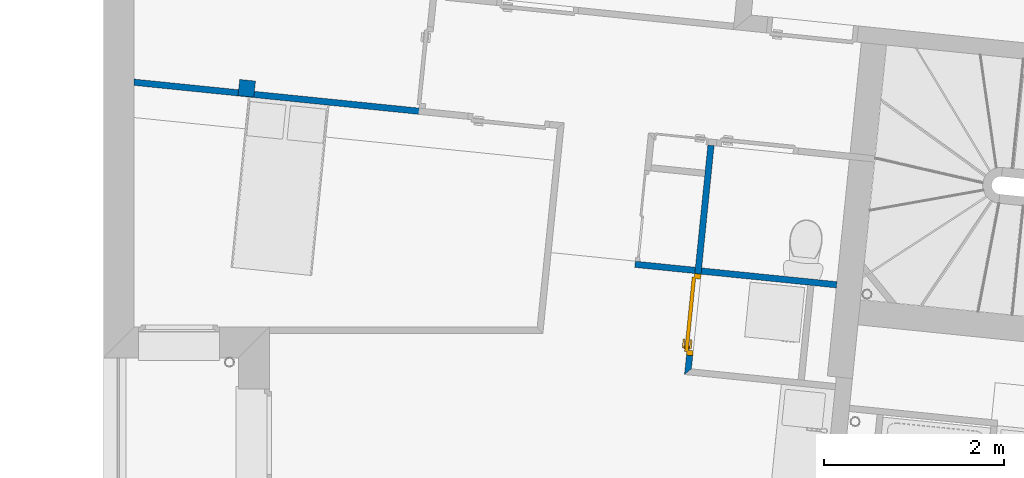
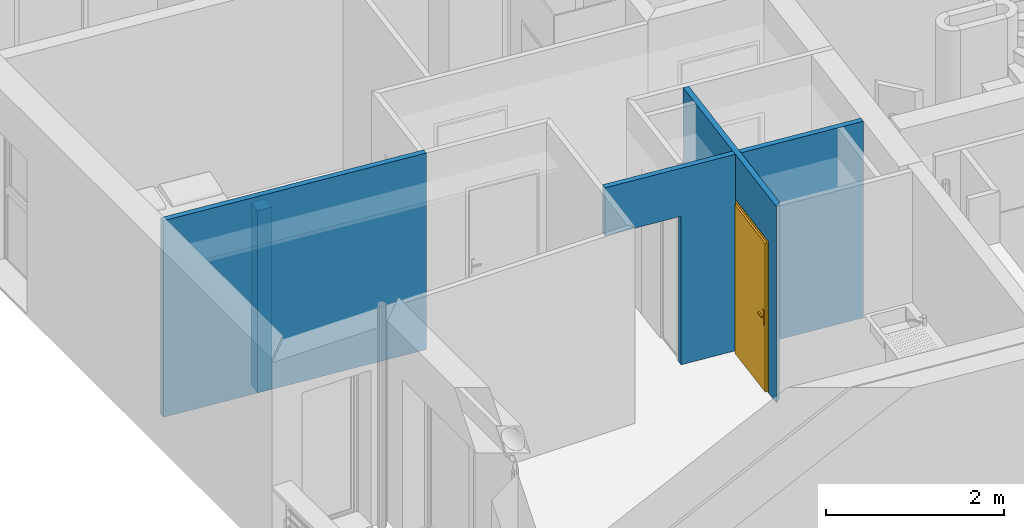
# One storey, part 46 of 164: 4 walls, 1 door, 2 openings.
"""IFC2X3 building model written with IfcOpenShell, lengths in millimetres."""

import ifcopenshell
import ifcopenshell.guid

model = None  # the IFC model being written
_history = None  # IfcOwnerHistory: only IFC2X3 demands one
_inside = {}  # id of a spatial element -> (the spatial element, [elements in it])
_under = {}  # id of a project, library or spatial element -> (it, [spatial elements below it])
_declared = {}  # id of a project -> (the project, [libraries it declares])
_typed = {}  # id of a type object -> (the type object, [elements of that type])
_made_of = {}  # id of a material, layer set ... -> (it, [elements and type objects made of it])


def new_model(schema):
    """Start an empty IFC model of exactly this schema.

    Asked for "IFC4X3", IfcOpenShell would pick the latest addendum, in which some entities
    have other attributes; the version numbers below select the first issue.
    IFC2X3 requires an IfcOwnerHistory on every rooted entity: one is made here for all.
    """
    global model, _history
    if schema == "IFC4X3":
        model = ifcopenshell.file(schema_version=(4, 3, 0, 0))
    else:
        model = ifcopenshell.file(schema=schema)
    _inside.clear()
    _under.clear()
    _declared.clear()
    _typed.clear()
    _made_of.clear()
    _history = None
    if model.schema == "IFC2X3":
        org = make("IfcOrganization", Name="unknown")
        user = make(
            "IfcPersonAndOrganization",
            ThePerson=make("IfcPerson", FamilyName="unknown"),
            TheOrganization=org,
        )
        app = make(
            "IfcApplication",
            ApplicationDeveloper=org,
            Version="unknown",
            ApplicationFullName="unknown",
            ApplicationIdentifier="unknown",
        )
        _history = make(
            "IfcOwnerHistory",
            OwningUser=user,
            OwningApplication=app,
            ChangeAction="ADDED",
            CreationDate=0,
        )
    return model


def make(cls, **values):
    """One entity of the class cls with the attributes given. An attribute that is None is left unset."""
    return model.create_entity(
        cls, **{name: value for name, value in values.items() if value is not None}
    )


def entity(cls, *values):
    """Any entity or typed value of the class cls, its attributes in the order of the schema. None: left unset."""
    e = model.create_entity(cls)
    for i, value in enumerate(values):
        if value is not None:
            e[i] = value
    return e


def rooted(cls, **values):
    """An entity with a GlobalId (a new one), such as an element, a storey or a relation."""
    return make(cls, GlobalId=ifcopenshell.guid.new(), OwnerHistory=_history, **values)


def si_unit(unit_type, name, prefix=None):
    """IfcSIUnit, for example si_unit("LENGTHUNIT", "METRE", prefix="MILLI")."""
    return make("IfcSIUnit", UnitType=unit_type, Prefix=prefix, Name=name)


def converted_unit(unit_type, name, factor, base, dimensions=None, offset=None):
    """IfcConversionBasedUnit, such as the inch: factor (a typed value) times the base unit."""
    return make(
        "IfcConversionBasedUnit"
        if offset is None
        else "IfcConversionBasedUnitWithOffset",
        ConversionOffset=offset,
        Dimensions=None
        if dimensions is None
        else entity("IfcDimensionalExponents", *dimensions),
        UnitType=unit_type,
        Name=name,
        ConversionFactor=make(
            "IfcMeasureWithUnit", ValueComponent=factor, UnitComponent=base
        ),
    )


def derived_unit(unit_type, elements):
    """IfcDerivedUnit: a product of units, each with its exponent."""
    return make(
        "IfcDerivedUnit",
        Elements=[
            make("IfcDerivedUnitElement", Unit=unit, Exponent=power)
            for unit, power in elements
        ],
        UnitType=unit_type,
    )


def money_unit(currency):
    """IfcMonetaryUnit."""
    return make("IfcMonetaryUnit", Currency=currency)


def assignment(units):
    """IfcUnitAssignment: the units of a project."""
    return None if units is None else make("IfcUnitAssignment", Units=units)


def point(xyz):
    """IfcCartesianPoint."""
    return None if xyz is None else make("IfcCartesianPoint", Coordinates=xyz)


def direction(xyz):
    """IfcDirection."""
    return None if xyz is None else make("IfcDirection", DirectionRatios=xyz)


def frame(location, z_axis=None, x_axis=None):
    """IfcAxis2Placement3D, a coordinate frame: its origin and axes. An axis left out is left unset."""
    return make(
        "IfcAxis2Placement3D",
        Location=point(location),
        Axis=direction(z_axis),
        RefDirection=direction(x_axis),
    )


def frame_2d(location, x_axis=None):
    """IfcAxis2Placement2D, a coordinate frame in the plane: its origin and x axis."""
    return make(
        "IfcAxis2Placement2D", Location=point(location), RefDirection=direction(x_axis)
    )


def origin_with_axes():
    """The frame at (0, 0, 0) with the z axis (0, 0, 1) and the x axis (1, 0, 0) written out."""
    return frame((0.0, 0.0, 0.0), z_axis=(0.0, 0.0, 1.0), x_axis=(1.0, 0.0, 0.0))


def origin_2d_with_axis():
    """The frame at (0, 0) in the plane with the x axis (1, 0) written out."""
    return frame_2d((0.0, 0.0), x_axis=(1.0, 0.0))


def place(relative_to, where):
    """IfcLocalPlacement: puts the frame where relative to a parent placement (None: the world)."""
    return make(
        "IfcLocalPlacement", PlacementRelTo=relative_to, RelativePlacement=where
    )


def context(
    kind, dimensions, precision=None, world=None, true_north=None, identifier=None
):
    """IfcGeometricRepresentationContext, for example the 3D "Model" context."""
    return make(
        "IfcGeometricRepresentationContext",
        ContextIdentifier=identifier,
        ContextType=kind,
        CoordinateSpaceDimension=dimensions,
        Precision=precision,
        WorldCoordinateSystem=world,
        TrueNorth=true_north,
    )


def subcontext(parent, identifier, kind, view, scale=None):
    """IfcGeometricRepresentationSubContext, for example "Body" below "Model"."""
    return make(
        "IfcGeometricRepresentationSubContext",
        ContextIdentifier=identifier,
        ContextType=kind,
        ParentContext=parent,
        TargetScale=scale,
        TargetView=view,
    )


def project(units=None, contexts=None):
    """IfcProject with its units and contexts."""
    return rooted(
        "IfcProject",
        Name="project",
        RepresentationContexts=contexts,
        UnitsInContext=assignment(units),
    )


def spatial(cls, under=None, at=None, **own):
    """A site, building, storey or space (cls), placed at a placement, below another one or the project."""
    s = rooted(cls, ObjectPlacement=at, **own)
    if under is not None:
        _under.setdefault(under.id(), (under, []))[1].append(s)
    return s


def polyline(points):
    """IfcPolyline through the points."""
    return make("IfcPolyline", Points=[point(p) for p in points])


def profile(cls, at=None, kind="AREA", **sizes):
    """A parametric profile (cls). Its sizes go by their IFC names, for example OverallWidth=200.0."""
    return make(cls, ProfileType=kind, Position=at, **sizes)


def rectangle(**sizes):
    """IfcRectangleProfileDef."""
    return profile("IfcRectangleProfileDef", **sizes)


def outline(outer, holes=None, kind="AREA"):
    """IfcArbitraryClosedProfileDef: a profile drawn as a closed curve; with holes, ...WithVoids."""
    if holes is None:
        return make("IfcArbitraryClosedProfileDef", ProfileType=kind, OuterCurve=outer)
    return make(
        "IfcArbitraryProfileDefWithVoids",
        ProfileType=kind,
        OuterCurve=outer,
        InnerCurves=holes,
    )


def extrude(swept, where, along, depth):
    """IfcExtrudedAreaSolid: the profile swept, set in the frame where, extruded along a direction by depth."""
    return make(
        "IfcExtrudedAreaSolid",
        SweptArea=swept,
        Position=where,
        ExtrudedDirection=direction(along),
        Depth=depth,
    )


def faces_of(points, faces, orient=None, outer=None):
    """IfcFace entities. A face is a list of loops; a loop is a list of indices into points, from 0.

    orient and outer hold one flag for each loop. By default every Orientation is true, the
    first loop of a face is its IfcFaceOuterBound and the others are IfcFaceBound.
    """
    made = []
    for i, loops in enumerate(faces):
        bounds = []
        for j, loop in enumerate(loops):
            is_outer = j == 0 if outer is None else outer[i][j]
            bounds.append(
                make(
                    "IfcFaceOuterBound" if is_outer else "IfcFaceBound",
                    Bound=make("IfcPolyLoop", Polygon=[points[k] for k in loop]),
                    Orientation=True if orient is None else orient[i][j],
                )
            )
        made.append(make("IfcFace", Bounds=bounds))
    return made


def faceted_brep(points, faces, orient=None, outer=None, voids=None):
    """IfcFacetedBrep: a solid bounded by flat faces; with voids (closed shells), ...WithVoids."""
    shared = [point(p) for p in points]
    hull = make("IfcClosedShell", CfsFaces=faces_of(shared, faces, orient, outer))
    if voids is None:
        return make("IfcFacetedBrep", Outer=hull)
    return make(
        "IfcFacetedBrepWithVoids",
        Outer=hull,
        Voids=[
            make(cls, CfsFaces=faces_of(shared, fs, o, b)) for cls, fs, o, b in voids
        ],
    )


def shape(context_of_items, identifier, shape_type, items):
    """IfcShapeRepresentation: the items that make up one representation, for example the "Body"."""
    return make(
        "IfcShapeRepresentation",
        ContextOfItems=context_of_items,
        RepresentationIdentifier=identifier,
        RepresentationType=shape_type,
        Items=items,
    )


def source(mapping_origin, context_of_items, identifier, shape_type, items):
    """IfcRepresentationMap: a shape defined once, which mapped items show again and again."""
    return make(
        "IfcRepresentationMap",
        MappingOrigin=mapping_origin,
        MappedRepresentation=shape(context_of_items, identifier, shape_type, items),
    )


def transform(
    local_origin,
    x_axis=None,
    y_axis=None,
    z_axis=None,
    scale=None,
    scale2=None,
    scale3=None,
    uniform=True,
):
    """IfcCartesianTransformationOperator3D, or its non-uniform kind. x_axis, y_axis, z_axis: its Axis1, 2, 3."""
    if uniform:
        return make(
            "IfcCartesianTransformationOperator3D",
            Axis1=direction(x_axis),
            Axis2=direction(y_axis),
            LocalOrigin=point(local_origin),
            Scale=scale,
            Axis3=direction(z_axis),
        )
    return make(
        "IfcCartesianTransformationOperator3DnonUniform",
        Axis1=direction(x_axis),
        Axis2=direction(y_axis),
        LocalOrigin=point(local_origin),
        Scale=scale,
        Axis3=direction(z_axis),
        Scale2=scale2,
        Scale3=scale3,
    )


def mapped(mapping_source, mapping_target):
    """IfcMappedItem: shows the shape of a source again, moved by a transform."""
    return make(
        "IfcMappedItem", MappingSource=mapping_source, MappingTarget=mapping_target
    )


def material(Name=None, Category=None):
    """IfcMaterial."""
    return make("IfcMaterial", Name=Name, Category=Category)


def layer(
    of_material, thickness, ventilated=None, Name=None, Category=None, Priority=None
):
    """IfcMaterialLayer: one layer of a wall or slab, of a material (None: an air gap)."""
    return make(
        "IfcMaterialLayer",
        Material=of_material,
        LayerThickness=thickness,
        IsVentilated=ventilated,
        Name=Name,
        Category=Category,
        Priority=Priority,
    )


def layer_set(layers, Name=None):
    """IfcMaterialLayerSet."""
    return make("IfcMaterialLayerSet", MaterialLayers=layers, LayerSetName=Name)


def layer_usage(for_layer_set, set_direction, sense, offset, extent=None):
    """IfcMaterialLayerSetUsage: how a layer set lies in its element."""
    return make(
        "IfcMaterialLayerSetUsage",
        ForLayerSet=for_layer_set,
        LayerSetDirection=set_direction,
        DirectionSense=sense,
        OffsetFromReferenceLine=offset,
        ReferenceExtent=extent,
    )


def made_of(thing, what):
    """Note that an element or type object is made of a material, layer set ...; save() writes the relation."""
    if what is not None:
        _made_of.setdefault(what.id(), (what, []))[1].append(thing)
    return thing


def type_object(cls, material=None, **own):
    """A type object (cls), such as IfcWallType, which elements share."""
    return made_of(rooted(cls, **own), material)


def element(
    cls,
    number,
    at=None,
    inside=None,
    cuts=None,
    type_object=None,
    material=None,
    context=None,
    identifier="Body",
    shape_type=None,
    held_by="IfcProductDefinitionShape",
    body=None,
    shapes=None,
    **own,
):
    """One element of the class cls, such as IfcWall. Its Tag is "e" and its number.

    at: its placement. inside: the storey or other place that contains it. cuts: it is an
    opening in that element (IfcRelVoidsElement). A single representation is given by context,
    identifier, shape_type and body (its items); several are given by shapes. held_by: the class
    of the entity that holds the representations. save() writes the other relations.
    """
    e = rooted(cls, Tag="e%d" % number, ObjectPlacement=at, **own)
    if body is not None:
        shapes = [shape(context, identifier, shape_type, body)]
    if shapes is not None:
        e.Representation = make(held_by, Representations=shapes)
    if inside is not None:
        _inside.setdefault(inside.id(), (inside, []))[1].append(e)
    if cuts is not None:
        rooted(
            "IfcRelVoidsElement", RelatingBuildingElement=cuts, RelatedOpeningElement=e
        )
    if type_object is not None:
        _typed.setdefault(type_object.id(), (type_object, []))[1].append(e)
    return made_of(e, material)


def fill(opening, filler):
    """IfcRelFillsElement: the door or window that sits in an opening."""
    return rooted(
        "IfcRelFillsElement",
        RelatingOpeningElement=opening,
        RelatedBuildingElement=filler,
    )


def aggregate(whole, parts):
    """IfcRelAggregates: a whole, such as a stair, and the parts it consists of."""
    return rooted("IfcRelAggregates", RelatingObject=whole, RelatedObjects=parts)


def save(model, path):
    """Write the relations noted so far, then the file.

    IfcRelAggregates (storeys below a building ...), IfcRelContainedInSpatialStructure (elements
    in a storey), IfcRelDefinesByType, IfcRelAssociatesMaterial and IfcRelDeclares: one each for
    every whole, place, type object, material and project.
    """
    for whole, parts in _under.values():
        aggregate(whole, parts)
    for where, things in _inside.values():
        rooted(
            "IfcRelContainedInSpatialStructure",
            RelatedElements=things,
            RelatingStructure=where,
        )
    for kind, things in _typed.values():
        rooted("IfcRelDefinesByType", RelatedObjects=things, RelatingType=kind)
    for what, things in _made_of.values():
        rooted("IfcRelAssociatesMaterial", RelatedObjects=things, RelatingMaterial=what)
    for by, libraries in _declared.values():
        rooted("IfcRelDeclares", RelatingContext=by, RelatedDefinitions=libraries)
    model.write(path)


model = new_model("IFC2X3")

# Units and contexts
model_context = context("Model", 3, precision=0.01, world=origin_with_axes(), true_north=direction((0.0, 1.0)))
body_context = subcontext(model_context, "Body", "Model", "MODEL_VIEW")
ifc_project = project(units=[si_unit("LENGTHUNIT", "METRE", prefix="MILLI"), si_unit("AREAUNIT", "SQUARE_METRE"), si_unit("VOLUMEUNIT", "CUBIC_METRE"), converted_unit("PLANEANGLEUNIT", "DEGREE", entity("IfcPlaneAngleMeasure", 0.0174532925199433), si_unit("PLANEANGLEUNIT", "RADIAN"), dimensions=[0, 0, 0, 0, 0, 0, 0]), money_unit("USD"), converted_unit("TIMEUNIT", "Year", entity("IfcTimeMeasure", 31557600.0), si_unit("TIMEUNIT", "SECOND"), dimensions=[0, 0, 1, 0, 0, 0, 0]), si_unit("MASSUNIT", "GRAM", prefix="KILO"), si_unit("THERMODYNAMICTEMPERATUREUNIT", "DEGREE_CELSIUS"), si_unit("LUMINOUSINTENSITYUNIT", "LUMEN"), si_unit("ENERGYUNIT", "JOULE", prefix="MEGA"), derived_unit("THERMALCONDUCTANCEUNIT", [(si_unit("POWERUNIT", "WATT"), 1), (si_unit("LENGTHUNIT", "METRE"), -1), (si_unit("THERMODYNAMICTEMPERATUREUNIT", "KELVIN"), -1)]), derived_unit("SPECIFICHEATCAPACITYUNIT", [(si_unit("ENERGYUNIT", "JOULE"), 1), (si_unit("MASSUNIT", "GRAM", prefix="KILO"), -1), (si_unit("THERMODYNAMICTEMPERATUREUNIT", "KELVIN"), -1)]), derived_unit("MASSDENSITYUNIT", [(si_unit("MASSUNIT", "GRAM", prefix="KILO"), 1), (si_unit("VOLUMEUNIT", "CUBIC_METRE"), -1)])], contexts=[model_context])

# Site, building, storey
site_placement = place(None, origin_with_axes())
site = spatial("IfcSite", under=ifc_project, at=site_placement, Name="Site", CompositionType="ELEMENT")
building_placement = place(site_placement, origin_with_axes())
building = spatial("IfcBuilding", under=site, at=building_placement, Name="Bâtiment", CompositionType="ELEMENT")
storey_placement = place(building_placement, frame((0.0, 0.0, 5750.0), z_axis=(0.0, 0.0, 1.0), x_axis=(1.0, 0.0, 0.0)))
storey = spatial("IfcBuildingStorey", under=building, at=storey_placement, Name="Etage1", CompositionType="ELEMENT", Elevation=5750.0)

# Wall
ifc_material_1 = material(Name="Hachure solide 268963992")
ifc_layer_1 = layer(ifc_material_1, 70.0, ventilated="UNKNOWN")
ifc_layer_set_1 = layer_set([ifc_layer_1], Name="Cloison 70 0826278243")
ifc_layer_usage_1 = layer_usage(ifc_layer_set_1, "AXIS2", "NEGATIVE", 70.0)
wall_type_1 = type_object("IfcWallType", Name="Cloison 70 0826278243 70", PredefinedType="NOTDEFINED")
wall_1_placement = place(storey_placement, frame((2220206.841744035, -614741.7699584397, 0.0), z_axis=(0.0, 0.0, 1.0), x_axis=(-0.9948688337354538, 0.1011731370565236, 0.0)))
element("IfcWallStandardCase", 1, at=wall_1_placement, inside=storey, type_object=wall_type_1, material=ifc_layer_usage_1, Name="Mur-149", context=body_context, shape_type="SweptSolid", body=[
    extrude(outline(polyline([(0.0, 0.0), (3249.281000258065, 0.0), (3242.162353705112, 70.00000000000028), (0.0, 70.00000000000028), (0.0, 0.0)])), origin_with_axes(), (0.0, 0.0, 1.0), 2700.0),
])

# Wall, opening, door
ifc_layer_usage_2 = layer_usage(ifc_layer_set_1, "AXIS2", "POSITIVE", -70.0)
wall_2_placement = place(storey_placement, frame((2223419.086359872, -615083.2193073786, 0.0), z_axis=(0.0, 0.0, 1.0), x_axis=(-0.1011032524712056, -0.9948759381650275, 0.0)))
wall_2 = element("IfcWallStandardCase", 2, at=wall_2_placement, inside=storey, type_object=wall_type_1, material=ifc_layer_usage_2, Name="Mur-149", context=body_context, shape_type="SweptSolid", body=[
    extrude(outline(polyline([(70.00000213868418, -70.00000000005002), (2629.231776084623, -70.00000000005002), (2559.231773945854, 0.0), (70.00000000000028, 0.0), (70.00000213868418, -70.00000000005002)])), origin_with_axes(), (0.0, 0.0, 1.0), 2700.0),
])
opening_1_placement = place(wall_2_placement, frame((1958.088383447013, 2.273736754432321e-10, 0.0), z_axis=(0.0, 0.0, 1.0), x_axis=(1.0, 0.0, 0.0)))
opening_1 = element("IfcOpeningElement", 3, at=opening_1_placement, cuts=wall_2, Name="Por-278", context=body_context, shape_type="SweptSolid", body=[
    extrude(rectangle(XDim=910.0, YDim=2080.0, at=origin_2d_with_axis()), frame((0.0, 70.00000000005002, 1040.0), z_axis=(0.0, -1.0, 0.0), x_axis=(-1.0, 0.0, 0.0)), (0.0, 0.0, 1.0), 140.0),
])
door_style = type_object("IfcDoorStyle", Name="Porte_1v", ConstructionType="NOTDEFINED", OperationType="NOTDEFINED", ParameterTakesPrecedence=False, Sizeable=False)
shared_shape = source(origin_with_axes(), body_context, "Body", "Brep", [
    faceted_brep([(455.0, 0.0, 0.0), (415.0000000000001, 0.0, 0.0), (415.0000000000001, 0.0, 2040.0), (-415.0000000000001, 0.0, 2040.0), (-415.0000000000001, 0.0, 0.0), (-455.0, 0.0, 0.0), (-455.0, 0.0, 2080.0), (455.0, 0.0, 2080.0), (455.0, -70.0, 0.0), (400.0, -70.0, 0.0), (400.0, -15.0, 0.0), (415.0000000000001, -15.0, 0.0), (415.0000000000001, -15.0, 2040.0), (-415.0000000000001, -15.0, 2040.0), (-415.0000000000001, -15.0, 0.0), (-400.0, -15.0, 0.0), (-400.0, -70.0, 0.0), (-455.0, -70.0, 0.0), (-455.0, -70.0, 2080.0), (455.0, -70.0, 2080.0), (-400.0, -70.0, 2025.0), (400.0, -70.0, 2025.0), (400.0, -15.0, 2025.0), (-400.0, -15.0, 2025.0)], [[[0, 1, 2, 3, 4, 5, 6, 7]], [[0, 8, 9, 10, 11, 1]], [[1, 11, 12, 2]], [[2, 12, 13, 3]], [[3, 13, 14, 4]], [[5, 4, 14, 15, 16, 17]], [[18, 6, 5, 17]], [[19, 7, 6, 18]], [[8, 0, 7, 19]], [[9, 8, 19, 18, 17, 16, 20, 21]], [[10, 9, 21, 22]], [[11, 10, 22, 23, 15, 14, 13, 12]], [[23, 20, 16, 15]], [[22, 21, 20, 23]]]),
    faceted_brep([(-350.0000000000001, -15.0, 900.0), (-390.0, -15.0, 900.0), (-390.0, -15.0, 1100.0), (-350.0000000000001, -15.0, 1100.0), (-350.0000000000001, -25.0, 900.0), (-390.0, -25.0, 900.0), (-390.0, -25.0, 1100.0), (-350.0000000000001, -25.0, 1100.0)], [[[0, 1, 2, 3]], [[1, 0, 4, 5]], [[2, 1, 5, 6]], [[3, 2, 6, 7]], [[0, 3, 7, 4]], [[5, 4, 7, 6]]]),
    faceted_brep([(-280.0, -25.0, 1000.0), (-380.0, -25.0, 1000.0), (-380.0, -25.0, 1020.0), (-280.0, -25.0, 1020.0), (-280.0, -45.0, 1000.0), (-380.0, -45.0, 1000.0), (-380.0, -45.0, 1020.0), (-280.0, -45.0, 1020.0)], [[[0, 1, 2, 3]], [[1, 0, 4, 5]], [[2, 1, 5, 6]], [[3, 2, 6, 7]], [[0, 3, 7, 4]], [[5, 4, 7, 6]]]),
    faceted_brep([(-350.0000000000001, 35.0, 900.0), (-390.0, 35.0, 900.0), (-390.0, 35.0, 1100.0), (-350.0000000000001, 35.0, 1100.0), (-350.0000000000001, 25.0, 900.0), (-390.0, 25.0, 900.0), (-390.0, 25.0, 1100.0), (-350.0000000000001, 25.0, 1100.0)], [[[0, 1, 2, 3]], [[1, 0, 4, 5]], [[2, 1, 5, 6]], [[3, 2, 6, 7]], [[0, 3, 7, 4]], [[5, 4, 7, 6]]]),
    faceted_brep([(-280.0, 55.00000000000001, 1000.0), (-380.0, 55.00000000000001, 1000.0), (-380.0, 55.00000000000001, 1020.0), (-280.0, 55.00000000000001, 1020.0), (-280.0, 35.0, 1000.0), (-380.0, 35.0, 1000.0), (-380.0, 35.0, 1020.0), (-280.0, 35.0, 1020.0)], [[[0, 1, 2, 3]], [[1, 0, 4, 5]], [[2, 1, 5, 6]], [[3, 2, 6, 7]], [[0, 3, 7, 4]], [[5, 4, 7, 6]]]),
    faceted_brep([(-415.0000000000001, 25.0, 0.0), (415.0000000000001, 25.0, 0.0), (415.0000000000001, -15.0, 0.0), (-415.0000000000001, -15.0, 0.0), (-415.0000000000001, 25.0, 2040.0), (415.0000000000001, 25.0, 2040.0), (415.0000000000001, -15.0, 2040.0), (-415.0000000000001, -15.0, 2040.0)], [[[0, 1, 2, 3]], [[0, 4, 5, 1]], [[1, 5, 6, 2]], [[3, 2, 6, 7]], [[4, 0, 3, 7]], [[5, 4, 7, 6]]]),
])
door_placement = place(opening_1_placement, frame((414.9999999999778, 1.13686837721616e-10, 0.0), z_axis=(0.0, 0.0, 1.0), x_axis=(-1.0, 0.0, 0.0)))
door = element("IfcDoor", 4, at=door_placement, inside=storey, type_object=door_style, Name="Por-278", OverallHeight=2040.0, OverallWidth=830.0, context=body_context, shape_type="MappedRepresentation", body=[
    mapped(shared_shape, transform((414.9999999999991, 70.00000000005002, 0.0))),
])
fill(opening_1, door)

# Wall, opening
ifc_layer_usage_3 = layer_usage(ifc_layer_set_1, "AXIS2", "NEGATIVE", 70.0)
wall_3_placement = place(storey_placement, frame((2225054.287823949, -616689.8643712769, 0.0), z_axis=(0.0, 0.0, 1.0), x_axis=(-0.9948759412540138, 0.1011032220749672, 0.0)))
wall_3 = element("IfcWallStandardCase", 5, at=wall_3_placement, inside=storey, type_object=wall_type_1, material=ifc_layer_usage_3, Name="Mur-149", context=body_context, shape_type="SweptSolid", body=[
    extrude(outline(polyline([(280.0000094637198, 0.0), (3469.338299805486, 0.0), (3469.343219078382, 69.99999999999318), (280.0182091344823, 69.99999999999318), (280.0000094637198, 0.0)])), origin_with_axes(), (0.0, 0.0, 1.0), 2700.0),
])
opening_2_placement = place(wall_3_placement, frame((2999.298933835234, 0.0, 0.0), z_axis=(0.0, 0.0, 1.0), x_axis=(1.0, 0.0, 0.0)))
element("IfcOpeningElement", 6, at=opening_2_placement, cuts=wall_3, Name="Por-280", context=body_context, shape_type="SweptSolid", body=[
    extrude(rectangle(XDim=940.0787319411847, YDim=2040.0, at=origin_2d_with_axis()), frame((0.0, 70.00000000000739, 1020.0), z_axis=(0.0, -1.0, 0.0), x_axis=(1.0, 0.0, 0.0)), (0.0, 0.0, -1.0), 70.0),
    extrude(rectangle(XDim=940.0787319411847, YDim=2040.0, at=origin_2d_with_axis()), frame((0.0, 70.00000000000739, 1020.0), z_axis=(0.0, 1.0, 0.0), x_axis=(1.0, 0.0, 0.0)), (0.0, 0.0, -1.0), 70.0),
])

# Wall
ifc_material_2 = material(Name="Parpaing 312445824")
ifc_layer_2 = layer(ifc_material_2, 180.0, ventilated="UNKNOWN")
ifc_layer_set_2 = layer_set([ifc_layer_2], Name="Beton  18 0836643197")
ifc_layer_usage_4 = layer_usage(ifc_layer_set_2, "AXIS2", "NEGATIVE", 0.0)
wall_type_2 = type_object("IfcWallType", Name="Beton  18 0836643197 180", PredefinedType="NOTDEFINED")
wall_4_placement = place(storey_placement, frame((2218303.104316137, -614614.0050685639, 0.0), z_axis=(0.0, 0.0, 1.0), x_axis=(-0.9948688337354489, 0.1011731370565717, 0.0)))
element("IfcWallStandardCase", 7, at=wall_4_placement, inside=storey, type_object=wall_type_2, material=ifc_layer_usage_4, Name="Mur-143", context=body_context, shape_type="SweptSolid", body=[
    extrude(outline(polyline([(0.0, -179.9999999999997), (176.068239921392, -180.0000000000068), (176.068239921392, 0.0), (0.0, 0.0), (0.0, -179.9999999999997)])), origin_with_axes(), (0.0, 0.0, 1.0), 2500.0),
])

save(model, "model.ifc")
